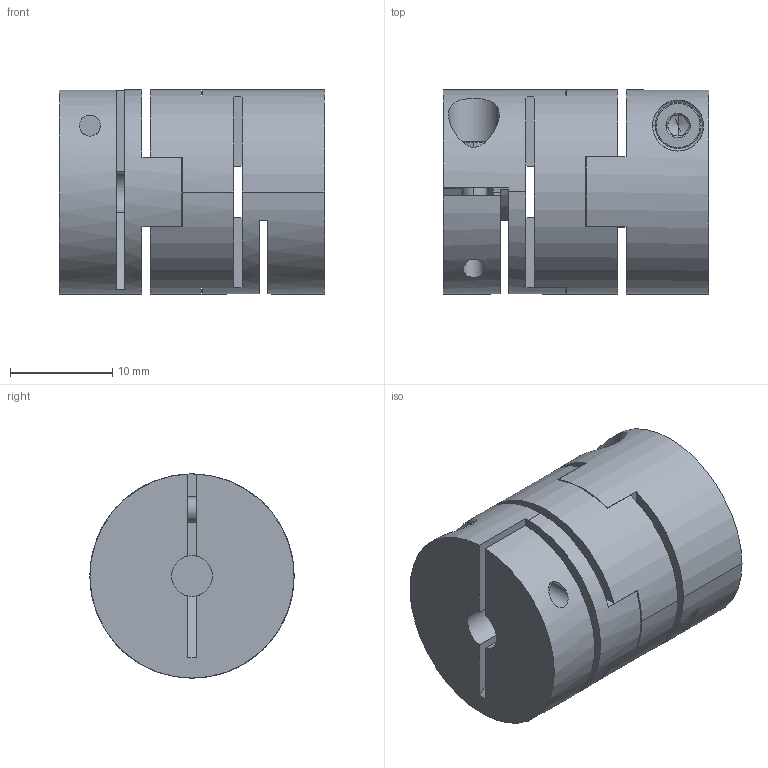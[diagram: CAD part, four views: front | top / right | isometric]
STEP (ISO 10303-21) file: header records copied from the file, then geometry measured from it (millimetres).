
FILE_DESCRIPTION (( 'STEP AP203' ), '1' );
FILE_NAME ('KBO2-20.STEP', '2024-01-10T12:05:09', ( '' ), ( '' ), 'SwSTEP 2.0', 'SolidWorks 2022', '' );
FILE_SCHEMA (( 'CONFIG_CONTROL_DESIGN' ));
Length unit declared in the file: millimetre
Products named in the file (4): ONK 20_011.00001056.100; KBO2-20; OZS 20_011.00000628.500; ISO 4762 - M2,5 x 8
Assembly tree (5 placements, depth 2):
  KBO2-20
    OZS 20_011.00000628.500
    ONK 20_011.00001056.100  x2
    ISO 4762 - M2,5 x 8  x2
Bounding box: 26 x 20 x 20 mm (x, y, z)
Volume: 6624.7 mm3; surface area: 5439.4 mm2
Topology: 5 solids, 5 shells, 147 faces, 373 edges, 236 vertices
Faces by surface type: plane 78, cylinder 45, torus 12, cone 12
Entity records: 3127 total; most frequent: CARTESIAN_POINT 566, DIRECTION 475, ORIENTED_EDGE 426, EDGE_CURVE 213, AXIS2_PLACEMENT_3D 184, VERTEX_POINT 137, LINE 107, VECTOR 107
